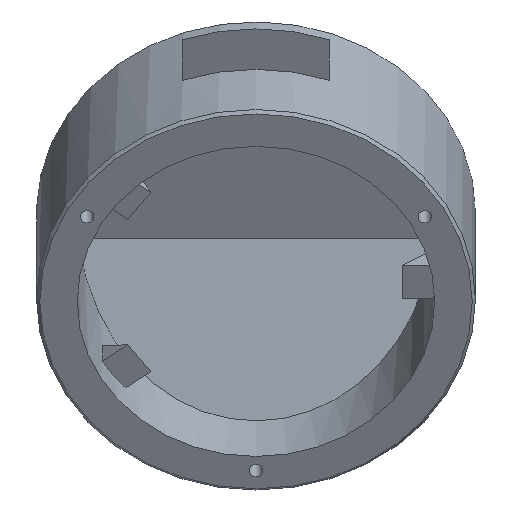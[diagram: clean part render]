
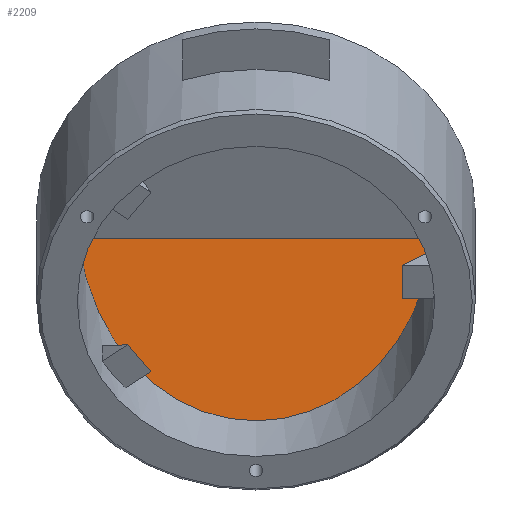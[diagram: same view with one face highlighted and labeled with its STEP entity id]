
A CAD part, top view. The second image highlights one B-rep face of the part: STEP entity #2209.
In plain terms, the highlighted planar face has unit normal (0, 0, 1).
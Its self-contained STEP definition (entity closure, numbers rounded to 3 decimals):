
#550 = CYLINDRICAL_SURFACE('',#551,22.);
#551 = AXIS2_PLACEMENT_3D('',#552,#553,#554);
#552 = CARTESIAN_POINT('',(0.,45.,-56.942));
#553 = DIRECTION('',(-0.,0.5,-0.866));
#554 = DIRECTION('',(1.,0.,0.));
#574 = PLANE('',#575);
#575 = AXIS2_PLACEMENT_3D('',#576,#577,#578);
#576 = CARTESIAN_POINT('',(-125.,-98.253,-58.821));
#577 = DIRECTION('',(0.,-0.5,0.866));
#578 = DIRECTION('',(1.,0.,0.));
#1021 = VERTEX_POINT('',#1022);
#1022 = CARTESIAN_POINT('',(21.851,7.784,2.4));
#1078 = VERTEX_POINT('',#1079);
#1079 = CARTESIAN_POINT('',(-21.851,7.784,2.4));
#1105 = EDGE_CURVE('',#1078,#1021,#1106,.T.);
#1106 = SURFACE_CURVE('',#1107,(#1111,#1117),.PCURVE_S1.);
#1107 = LINE('',#1108,#1109);
#1108 = CARTESIAN_POINT('',(-125.,7.784,2.4));
#1109 = VECTOR('',#1110,1.);
#1110 = DIRECTION('',(1.,0.,-0.));
#1111 = PCURVE('',#574,#1112);
#1112 = DEFINITIONAL_REPRESENTATION('',(#1113),#1116);
#1113 = B_SPLINE_CURVE_WITH_KNOTS('',1,(#1114,#1115),.UNSPECIFIED.,.F.,
  .F.,(2,2),(103.,147.),.PIECEWISE_BEZIER_KNOTS.);
#1114 = CARTESIAN_POINT('',(103.,122.441));
#1115 = CARTESIAN_POINT('',(147.,122.441));
#1116 = ( GEOMETRIC_REPRESENTATION_CONTEXT(2) 
PARAMETRIC_REPRESENTATION_CONTEXT() REPRESENTATION_CONTEXT('2D SPACE',''
  ) );
#1117 = PCURVE('',#1118,#1123);
#1118 = PLANE('',#1119);
#1119 = AXIS2_PLACEMENT_3D('',#1120,#1121,#1122);
#1120 = CARTESIAN_POINT('',(-125.,-125.,2.4));
#1121 = DIRECTION('',(0.,0.,1.));
#1122 = DIRECTION('',(1.,0.,0.));
#1123 = DEFINITIONAL_REPRESENTATION('',(#1124),#1127);
#1124 = B_SPLINE_CURVE_WITH_KNOTS('',1,(#1125,#1126),.UNSPECIFIED.,.F.,
  .F.,(2,2),(103.,147.),.PIECEWISE_BEZIER_KNOTS.);
#1125 = CARTESIAN_POINT('',(103.,132.784));
#1126 = CARTESIAN_POINT('',(147.,132.784));
#1127 = ( GEOMETRIC_REPRESENTATION_CONTEXT(2) 
PARAMETRIC_REPRESENTATION_CONTEXT() REPRESENTATION_CONTEXT('2D SPACE',''
  ) );
#1132 = EDGE_CURVE('',#1078,#1021,#1133,.T.);
#1133 = SURFACE_CURVE('',#1134,(#1139,#1180),.PCURVE_S1.);
#1134 = ELLIPSE('',#1135,25.403,22.);
#1135 = AXIS2_PLACEMENT_3D('',#1136,#1137,#1138);
#1136 = CARTESIAN_POINT('',(0.,10.739,2.4));
#1137 = DIRECTION('',(0.,0.,1.));
#1138 = DIRECTION('',(0.,1.,-0.));
#1139 = PCURVE('',#550,#1140);
#1140 = DEFINITIONAL_REPRESENTATION('',(#1141),#1179);
#1141 = B_SPLINE_CURVE_WITH_KNOTS('',8,(#1142,#1143,#1144,#1145,#1146,
    #1147,#1148,#1149,#1150,#1151,#1152,#1153,#1154,#1155,#1156,#1157,
    #1158,#1159,#1160,#1161,#1162,#1163,#1164,#1165,#1166,#1167,#1168,
    #1169,#1170,#1171,#1172,#1173,#1174,#1175,#1176,#1177,#1178),
  .UNSPECIFIED.,.F.,.F.,(9,7,7,7,7,9),(4.712,6.283,
    7.461,8.345,9.67,10.996),
  .UNSPECIFIED.);
#1142 = CARTESIAN_POINT('',(0.,-68.523));
#1143 = CARTESIAN_POINT('',(-0.196,-66.029));
#1144 = CARTESIAN_POINT('',(-0.393,-63.535));
#1145 = CARTESIAN_POINT('',(-0.589,-61.187));
#1146 = CARTESIAN_POINT('',(-0.785,-59.133));
#1147 = CARTESIAN_POINT('',(-0.982,-57.5));
#1148 = CARTESIAN_POINT('',(-1.178,-56.381));
#1149 = CARTESIAN_POINT('',(-1.374,-55.821));
#1150 = CARTESIAN_POINT('',(-1.718,-55.821));
#1151 = CARTESIAN_POINT('',(-1.865,-56.136));
#1152 = CARTESIAN_POINT('',(-2.013,-56.765));
#1153 = CARTESIAN_POINT('',(-2.16,-57.695));
#1154 = CARTESIAN_POINT('',(-2.307,-58.896));
#1155 = CARTESIAN_POINT('',(-2.454,-60.326));
#1156 = CARTESIAN_POINT('',(-2.602,-61.934));
#1157 = CARTESIAN_POINT('',(-2.859,-64.958));
#1158 = CARTESIAN_POINT('',(-2.97,-66.322));
#1159 = CARTESIAN_POINT('',(-3.08,-67.729));
#1160 = CARTESIAN_POINT('',(-3.191,-69.155));
#1161 = CARTESIAN_POINT('',(-3.301,-70.571));
#1162 = CARTESIAN_POINT('',(-3.412,-71.952));
#1163 = CARTESIAN_POINT('',(-3.522,-73.273));
#1164 = CARTESIAN_POINT('',(-3.798,-76.366));
#1165 = CARTESIAN_POINT('',(-3.964,-78.034));
#1166 = CARTESIAN_POINT('',(-4.129,-79.437));
#1167 = CARTESIAN_POINT('',(-4.295,-80.507));
#1168 = CARTESIAN_POINT('',(-4.461,-81.197));
#1169 = CARTESIAN_POINT('',(-4.626,-81.48));
#1170 = CARTESIAN_POINT('',(-4.792,-81.355));
#1171 = CARTESIAN_POINT('',(-5.123,-80.332));
#1172 = CARTESIAN_POINT('',(-5.289,-79.435));
#1173 = CARTESIAN_POINT('',(-5.455,-78.172));
#1174 = CARTESIAN_POINT('',(-5.621,-76.588));
#1175 = CARTESIAN_POINT('',(-5.786,-74.747));
#1176 = CARTESIAN_POINT('',(-5.952,-72.731));
#1177 = CARTESIAN_POINT('',(-6.118,-70.627));
#1178 = CARTESIAN_POINT('',(-6.283,-68.523));
#1179 = ( GEOMETRIC_REPRESENTATION_CONTEXT(2) 
PARAMETRIC_REPRESENTATION_CONTEXT() REPRESENTATION_CONTEXT('2D SPACE',''
  ) );
#1180 = PCURVE('',#1118,#1181);
#1181 = DEFINITIONAL_REPRESENTATION('',(#1182),#1186);
#1182 = ELLIPSE('',#1183,25.403,22.);
#1183 = AXIS2_PLACEMENT_2D('',#1184,#1185);
#1184 = CARTESIAN_POINT('',(125.,135.739));
#1185 = DIRECTION('',(0.,1.));
#1186 = ( GEOMETRIC_REPRESENTATION_CONTEXT(2) 
PARAMETRIC_REPRESENTATION_CONTEXT() REPRESENTATION_CONTEXT('2D SPACE',''
  ) );
#2209 = ADVANCED_FACE('',(#2210),#1118,.T.);
#2210 = FACE_BOUND('',#2211,.T.);
#2211 = EDGE_LOOP('',(#2212,#2213));
#2212 = ORIENTED_EDGE('',*,*,#1105,.F.);
#2213 = ORIENTED_EDGE('',*,*,#1132,.T.);
